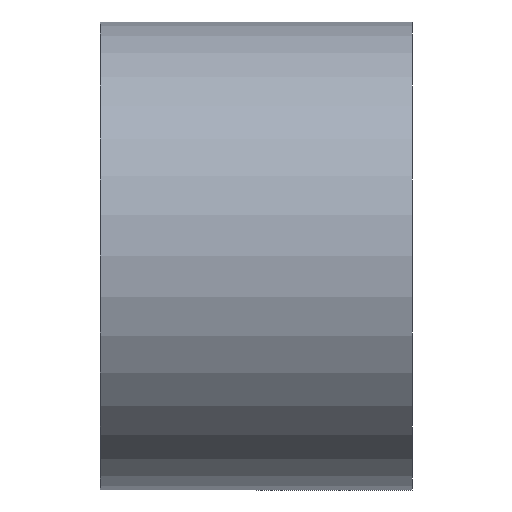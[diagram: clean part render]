
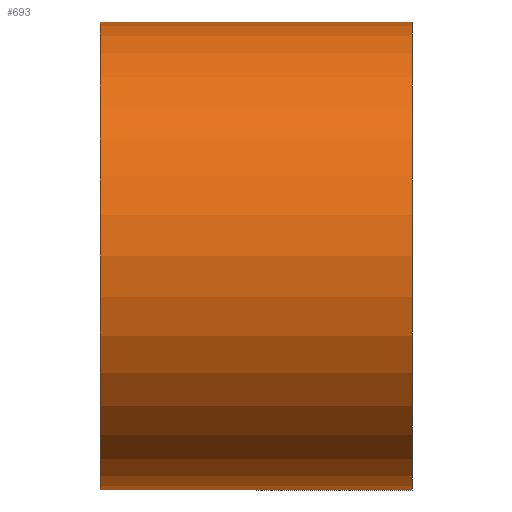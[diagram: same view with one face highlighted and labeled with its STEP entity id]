
A CAD part, front view. The second image highlights one B-rep face of the part: STEP entity #693.
In plain terms, the highlighted cylindrical face has radius 37.5 mm (diameter 75 mm), a partial arc.
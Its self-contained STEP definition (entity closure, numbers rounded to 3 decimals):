
#11 = CARTESIAN_POINT ( 'NONE',  ( 0., 0., 0. ) ) ;
#22 = VERTEX_POINT ( 'NONE', #38 ) ;
#38 = CARTESIAN_POINT ( 'NONE',  ( 25., 0., -37.5 ) ) ;
#60 = CARTESIAN_POINT ( 'NONE',  ( -25., 0., -37.5 ) ) ;
#73 = VECTOR ( 'NONE', #257, 1000. ) ;
#76 = CIRCLE ( 'NONE', #489, 37.5 ) ;
#93 = EDGE_LOOP ( 'NONE', ( #869, #244, #696, #211 ) ) ;
#136 = DIRECTION ( 'NONE',  ( 0., 0., 1. ) ) ;
#145 = CIRCLE ( 'NONE', #173, 37.5 ) ;
#152 = FACE_OUTER_BOUND ( 'NONE', #93, .T. ) ;
#156 = DIRECTION ( 'NONE',  ( -1., 0., 0. ) ) ;
#173 = AXIS2_PLACEMENT_3D ( 'NONE', #694, #595, #508 ) ;
#211 = ORIENTED_EDGE ( 'NONE', *, *, #352, .F. ) ;
#219 = CYLINDRICAL_SURFACE ( 'NONE', #435, 37.5 ) ;
#234 = CARTESIAN_POINT ( 'NONE',  ( 0., 0., 37.5 ) ) ;
#244 = ORIENTED_EDGE ( 'NONE', *, *, #865, .T. ) ;
#257 = DIRECTION ( 'NONE',  ( -1., 0., 0. ) ) ;
#330 = CARTESIAN_POINT ( 'NONE',  ( 0., 0., -37.5 ) ) ;
#352 = EDGE_CURVE ( 'NONE', #484, #540, #145, .T. ) ;
#390 = CARTESIAN_POINT ( 'NONE',  ( 25., 0., 37.5 ) ) ;
#409 = LINE ( 'NONE', #330, #73 ) ;
#412 = DIRECTION ( 'NONE',  ( -1., 0., 0. ) ) ;
#435 = AXIS2_PLACEMENT_3D ( 'NONE', #11, #691, #753 ) ;
#441 = VERTEX_POINT ( 'NONE', #390 ) ;
#464 = CARTESIAN_POINT ( 'NONE',  ( 25., 0., 0. ) ) ;
#484 = VERTEX_POINT ( 'NONE', #60 ) ;
#489 = AXIS2_PLACEMENT_3D ( 'NONE', #464, #412, #136 ) ;
#508 = DIRECTION ( 'NONE',  ( 0., 0., 1. ) ) ;
#540 = VERTEX_POINT ( 'NONE', #741 ) ;
#568 = EDGE_CURVE ( 'NONE', #22, #484, #409, .T. ) ;
#595 = DIRECTION ( 'NONE',  ( -1., 0., 0. ) ) ;
#691 = DIRECTION ( 'NONE',  ( -1., 0., 0. ) ) ;
#693 = ADVANCED_FACE ( 'NONE', ( #152 ), #219, .T. ) ;
#694 = CARTESIAN_POINT ( 'NONE',  ( -25., 0., 0. ) ) ;
#696 = ORIENTED_EDGE ( 'NONE', *, *, #735, .T. ) ;
#735 = EDGE_CURVE ( 'NONE', #441, #540, #799, .T. ) ;
#741 = CARTESIAN_POINT ( 'NONE',  ( -25., 0., 37.5 ) ) ;
#753 = DIRECTION ( 'NONE',  ( 0., 0., 1. ) ) ;
#759 = VECTOR ( 'NONE', #156, 1000. ) ;
#799 = LINE ( 'NONE', #234, #759 ) ;
#865 = EDGE_CURVE ( 'NONE', #22, #441, #76, .T. ) ;
#869 = ORIENTED_EDGE ( 'NONE', *, *, #568, .F. ) ;
